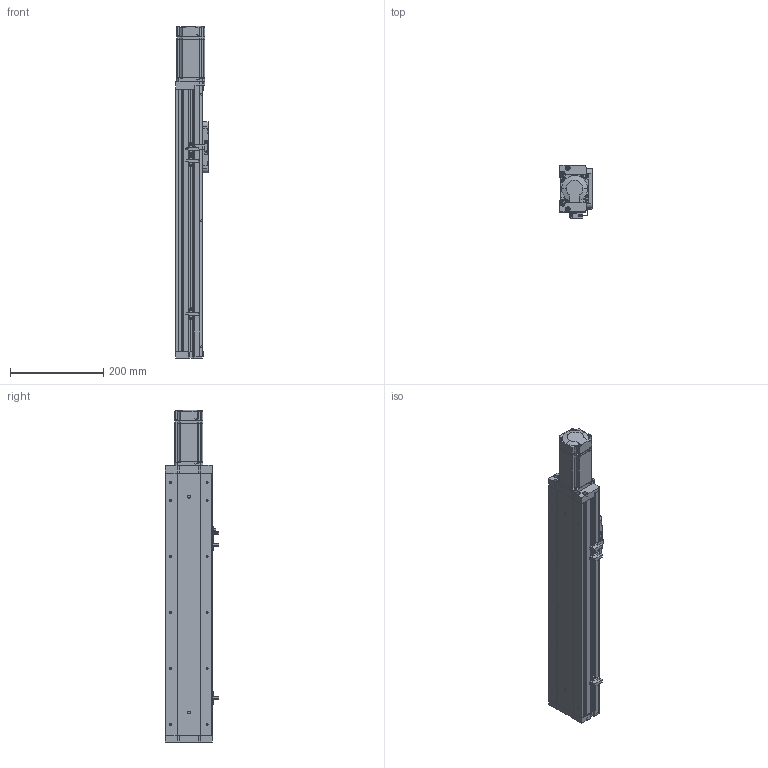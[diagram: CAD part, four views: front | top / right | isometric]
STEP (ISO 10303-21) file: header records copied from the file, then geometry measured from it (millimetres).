
FILE_DESCRIPTION (( 'STEP AP214' ), '1' );
FILE_NAME ('KSD100S-S350-MN-CR.STEP', '2019-09-02T09:03:26', ( '微软用户' ), ( '微软中国' ), 'SwSTEP 2.0', 'SolidWorks 2014', '' );
FILE_SCHEMA (( 'AUTOMOTIVE_DESIGN' ));
Length unit declared in the file: millimetre
Products named in the file (24): U倰嫖萇EEㄜSX672; U倰嫖萇假蚾璃; 感应片100宽全封闭; 100遵盓傅釱杶; 1604滚珠丝杆全封闭模组用350行程; 100宽马达安装板全封闭不带电机座; 100宽滚珠螺姆安装板全封闭; 100宽端板全封闭; 100宽滚珠螺姆安装板1防护罩; 100宽滚珠螺姆安装板1; 100宽盖板压板不带电机座; 100宽盖板350行程不带电机座; MHMD042G1CA_2_03; 100宽侧板350行程不带电机座; 6000ZZ粣創_PreviewCfg; EGH15CA导轨100宽模组全封闭350行程; 拸萇儂釱滅袉菜-1; 100宽底板全封闭350行程不带电机座; 拸萇儂釱滅袉菜; 傍杶; KSD100S-S350-MN-CR; 坶踡蹟譫; 傷裔100遵耀郪陔; CS-34X32-10X14
Assembly tree (31 placements, depth 2):
  KSD100S-S350-MN-CR
    100宽底板全封闭350行程不带电机座
    EGH15CA导轨100宽模组全封闭350行程  x2
    100宽侧板350行程不带电机座  x2
    100宽盖板350行程不带电机座
    100宽盖板压板不带电机座  x2
    100宽滚珠螺姆安装板1
    100宽滚珠螺姆安装板1防护罩
    100宽端板全封闭
    100宽滚珠螺姆安装板全封闭
    100宽马达安装板全封闭不带电机座
    1604滚珠丝杆全封闭模组用350行程
    100遵盓傅釱杶
    感应片100宽全封闭
    U倰嫖萇假蚾璃  x3
    U倰嫖萇EEㄜSX672  x3
    CS-34X32-10X14
    傷裔100遵耀郪陔
    坶踡蹟譫
    傍杶  x2
    拸萇儂釱滅袉菜
    拸萇儂釱滅袉菜-1
    6000ZZ粣創_PreviewCfg
    MHMD042G1CA_2_03
Bounding box: 70 x 113.7 x 710.5 mm (x, y, z)
Volume: 1751626.4 mm3; surface area: 735085 mm2
Topology: 32 solids, 33 shells, 3109 faces, 8156 edges, 5043 vertices
Faces by surface type: cylinder 1175, plane 1061, torus 490, cone 335, sphere 26, bspline 22
Entity records: 98275 total; most frequent: CARTESIAN_POINT 16887, DIRECTION 14866, ORIENTED_EDGE 13248, EDGE_CURVE 6696, AXIS2_PLACEMENT_3D 5814, VERTEX_POINT 4185, LINE 3238, VECTOR 3238
